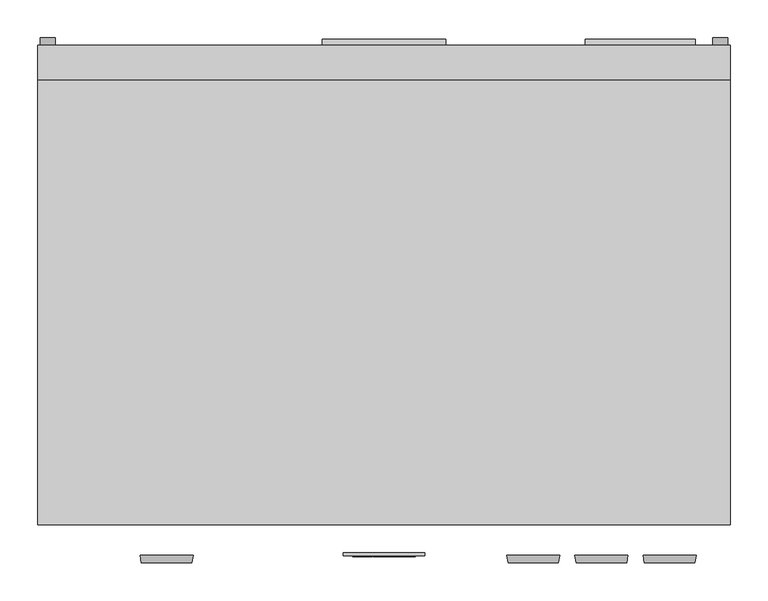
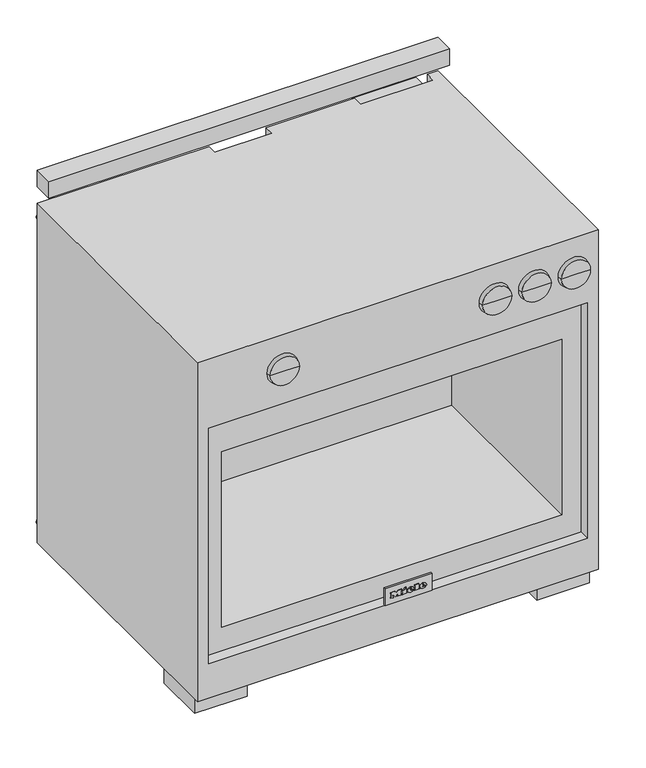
"""IFC4 building model written with IfcOpenShell, lengths in millimetres: proxy geometry, 11791500_USA_HR1136-3G_EDST-CLST : 25113681_USA_11791500_HR1136-3G_EDST-CLST."""

from ifc_helpers import new_model, si_unit, point, frame, frame_2d, origin, origin_with_axes, place, context, project, spatial, polyline, circle_curve, ellipse_curve, trimmed, segment, composite_curve, outline, extrude, faceted_brep, source, transform, mapped, element, save
from ifc_brep_helpers import plane_surface, cylinder_surface, revolved_surface, extruded_surface, advanced_brep


def specialty_equipment_e78757b0(model_context):
    return source(origin(), model_context, "Body", "SolidModel", [
        advanced_brep(
        [(-320.2367302, -683.0, 813.0), (-253.7632698, -683.0, 813.0), (-287.0, -683.0, 813.0), (-322.0, -673.0, 813.0), (-252.0, -673.0, 813.0), (-287.0, -673.0, 813.0)],
        [
            (0, 1, circle_curve(frame((-287.0, -683.0, 813.0), z_axis=(0.0, -1.0, 0.0), x_axis=(1.0, 0.0, 0.0)), 33.2367302)),
            (1, 2),
            (2, 0),
            (1, 0, circle_curve(frame((-287.0, -683.0, 813.0), z_axis=(0.0, -1.0, 0.0), x_axis=(1.0, 0.0, 0.0)), 33.2367302)),
            (3, 4, circle_curve(frame((-287.0, -673.0, 813.0), z_axis=(0.0, -1.0, 0.0), x_axis=(1.0, 0.0, 0.0)), 35.0)),
            (4, 1),
            (0, 3),
            (4, 3, circle_curve(frame((-287.0, -673.0, 813.0), z_axis=(0.0, -1.0, 0.0), x_axis=(1.0, 0.0, 0.0)), 35.0)),
            (5, 4),
            (3, 5),
        ],
        [
            plane_surface(frame((-287.0, -683.0, 813.0), z_axis=(0.0, -1.0, 0.0), x_axis=(1.0, 0.0, 0.0))),
            revolved_surface(polyline([(-253.7632698, -683.0, 813.0), (-252.0, -673.0, 813.0)]), (-287.0, 751.3738435, 813.0), (0.0, 1.0, 0.0)),
            plane_surface(frame((-287.0, -673.0, 813.0), z_axis=(0.0, 1.0, 0.0), x_axis=(1.0, 0.0, 0.0))),
        ],
        [
            (0, [[1, 2, 3]]),
            (0, [[4, -3, -2]]),
            (1, [[5, 6, -1, 7]]),
            (1, [[8, -7, -4, -6]]),
            (2, [[9, -5, 10]]),
            (2, [[-10, -8, -9]]),
        ],
    ),
        advanced_brep(
        [(163.7632698, -683.0, 813.0), (230.2367302, -683.0, 813.0), (197.0, -683.0, 813.0), (162.0, -673.0, 813.0), (232.0, -673.0, 813.0), (197.0, -673.0, 813.0)],
        [
            (0, 1, circle_curve(frame((197.0, -683.0, 813.0), z_axis=(0.0, -1.0, 0.0), x_axis=(1.0, 0.0, 0.0)), 33.2367302)),
            (1, 2),
            (2, 0),
            (1, 0, circle_curve(frame((197.0, -683.0, 813.0), z_axis=(0.0, -1.0, 0.0), x_axis=(1.0, 0.0, 0.0)), 33.2367302)),
            (3, 4, circle_curve(frame((197.0, -673.0, 813.0), z_axis=(0.0, -1.0, 0.0), x_axis=(1.0, 0.0, 0.0)), 35.0)),
            (4, 1),
            (0, 3),
            (4, 3, circle_curve(frame((197.0, -673.0, 813.0), z_axis=(0.0, -1.0, 0.0), x_axis=(1.0, 0.0, 0.0)), 35.0)),
            (5, 4),
            (3, 5),
        ],
        [
            plane_surface(frame((197.0, -683.0, 813.0), z_axis=(0.0, -1.0, 0.0), x_axis=(1.0, 0.0, 0.0))),
            revolved_surface(polyline([(230.2367302, -683.0, 813.0), (232.0, -673.0, 813.0)]), (197.0, 751.3738435, 813.0), (0.0, 1.0, 0.0)),
            plane_surface(frame((197.0, -673.0, 813.0), z_axis=(0.0, 1.0, 0.0), x_axis=(1.0, 0.0, 0.0))),
        ],
        [
            (0, [[1, 2, 3]]),
            (0, [[4, -3, -2]]),
            (1, [[5, 6, -1, 7]]),
            (1, [[8, -7, -4, -6]]),
            (2, [[9, -5, 10]]),
            (2, [[-10, -8, -9]]),
        ],
    ),
        advanced_brep(
        [(253.7632698, -683.0, 813.0), (320.2367302, -683.0, 813.0), (287.0, -683.0, 813.0), (252.0, -673.0, 813.0), (322.0, -673.0, 813.0), (287.0, -673.0, 813.0)],
        [
            (0, 1, circle_curve(frame((287.0, -683.0, 813.0), z_axis=(0.0, -1.0, 0.0), x_axis=(1.0, 0.0, 0.0)), 33.2367302)),
            (1, 2),
            (2, 0),
            (1, 0, circle_curve(frame((287.0, -683.0, 813.0), z_axis=(0.0, -1.0, 0.0), x_axis=(1.0, 0.0, 0.0)), 33.2367302)),
            (3, 4, circle_curve(frame((287.0, -673.0, 813.0), z_axis=(0.0, -1.0, 0.0), x_axis=(1.0, 0.0, 0.0)), 35.0)),
            (4, 1),
            (0, 3),
            (4, 3, circle_curve(frame((287.0, -673.0, 813.0), z_axis=(0.0, -1.0, 0.0), x_axis=(1.0, 0.0, 0.0)), 35.0)),
            (5, 4),
            (3, 5),
        ],
        [
            plane_surface(frame((287.0, -683.0, 813.0), z_axis=(0.0, -1.0, 0.0), x_axis=(1.0, 0.0, 0.0))),
            revolved_surface(polyline([(320.2367302, -683.0, 813.0), (322.0, -673.0, 813.0)]), (287.0, 751.3738435, 813.0), (0.0, 1.0, 0.0)),
            plane_surface(frame((287.0, -673.0, 813.0), z_axis=(0.0, 1.0, 0.0), x_axis=(1.0, 0.0, 0.0))),
        ],
        [
            (0, [[1, 2, 3]]),
            (0, [[4, -3, -2]]),
            (1, [[5, 6, -1, 7]]),
            (1, [[8, -7, -4, -6]]),
            (2, [[9, -5, 10]]),
            (2, [[-10, -8, -9]]),
        ],
    ),
        advanced_brep(
        [(343.7632698, -683.0, 813.0), (410.2367302, -683.0, 813.0), (377.0, -683.0, 813.0), (342.0, -673.0, 813.0), (412.0, -673.0, 813.0), (377.0, -673.0, 813.0)],
        [
            (0, 1, circle_curve(frame((377.0, -683.0, 813.0), z_axis=(0.0, -1.0, 0.0), x_axis=(1.0, 0.0, 0.0)), 33.2367302)),
            (1, 2),
            (2, 0),
            (1, 0, circle_curve(frame((377.0, -683.0, 813.0), z_axis=(0.0, -1.0, 0.0), x_axis=(1.0, 0.0, 0.0)), 33.2367302)),
            (3, 4, circle_curve(frame((377.0, -673.0, 813.0), z_axis=(0.0, -1.0, 0.0), x_axis=(1.0, 0.0, 0.0)), 35.0)),
            (4, 1),
            (0, 3),
            (4, 3, circle_curve(frame((377.0, -673.0, 813.0), z_axis=(0.0, -1.0, 0.0), x_axis=(1.0, 0.0, 0.0)), 35.0)),
            (5, 4),
            (3, 5),
        ],
        [
            plane_surface(frame((377.0, -683.0, 813.0), z_axis=(0.0, -1.0, 0.0), x_axis=(1.0, 0.0, 0.0))),
            revolved_surface(polyline([(410.2367302, -683.0, 813.0), (412.0, -673.0, 813.0)]), (377.0, 751.3738435, 813.0), (0.0, 1.0, 0.0)),
            plane_surface(frame((377.0, -673.0, 813.0), z_axis=(0.0, 1.0, 0.0), x_axis=(1.0, 0.0, 0.0))),
        ],
        [
            (0, [[1, 2, 3]]),
            (0, [[4, -3, -2]]),
            (1, [[5, 6, -1, 7]]),
            (1, [[8, -7, -4, -6]]),
            (2, [[9, -5, 10]]),
            (2, [[-10, -8, -9]]),
        ],
    ),
        extrude(outline(composite_curve([segment(trimmed(circle_curve(frame_2d((822.0, 444.0)), 10.0), [point((822.0, 454.0))], [point((822.0, 434.0))], False, "CARTESIAN"), True, "CONTINUOUS"), segment(trimmed(circle_curve(frame_2d((822.0, 444.0)), 10.0), [point((822.0, 434.0))], [point((822.0, 454.0))], False, "CARTESIAN"), True, "CONTINUOUS")], self_intersect=False)), frame((0.0, 0.0, 0.0), z_axis=(0.0, 1.0, 0.0), x_axis=(0.0, 0.0, 1.0)), (0.0, 0.0, 1.0), 10.0),
        extrude(outline(composite_curve([segment(trimmed(circle_curve(frame_2d((87.0, 444.0)), 10.0), [point((87.0, 454.0))], [point((87.0, 434.0))], False, "CARTESIAN"), True, "CONTINUOUS"), segment(trimmed(circle_curve(frame_2d((87.0, 444.0)), 10.0), [point((87.0, 434.0))], [point((87.0, 454.0))], False, "CARTESIAN"), True, "CONTINUOUS")], self_intersect=False)), frame((0.0, 0.0, 0.0), z_axis=(0.0, 1.0, 0.0), x_axis=(0.0, 0.0, 1.0)), (0.0, 0.0, 1.0), 10.0),
        extrude(outline(composite_curve([segment(trimmed(circle_curve(frame_2d((822.0, -444.0)), 10.0), [point((822.0, -434.0))], [point((822.0, -454.0))], False, "CARTESIAN"), True, "CONTINUOUS"), segment(trimmed(circle_curve(frame_2d((822.0, -444.0)), 10.0), [point((822.0, -454.0))], [point((822.0, -434.0))], False, "CARTESIAN"), True, "CONTINUOUS")], self_intersect=False)), frame((0.0, 0.0, 0.0), z_axis=(0.0, 1.0, 0.0), x_axis=(0.0, 0.0, 1.0)), (0.0, 0.0, 1.0), 10.0),
        extrude(outline(composite_curve([segment(trimmed(circle_curve(frame_2d((87.0, -444.0)), 10.0), [point((87.0, -434.0))], [point((87.0, -454.0))], False, "CARTESIAN"), True, "CONTINUOUS"), segment(trimmed(circle_curve(frame_2d((87.0, -444.0)), 10.0), [point((87.0, -454.0))], [point((87.0, -434.0))], False, "CARTESIAN"), True, "CONTINUOUS")], self_intersect=False)), frame((0.0, 0.0, 0.0), z_axis=(0.0, 1.0, 0.0), x_axis=(0.0, 0.0, 1.0)), (0.0, 0.0, 1.0), 10.0),
        extrude(outline(polyline([(266.0, 8.0), (411.0, 8.0), (411.0, -23.0), (266.0, -23.0), (266.0, 8.0)])), frame((0.0, 0.0, 742.0), z_axis=(0.0, 0.0, 1.0), x_axis=(1.0, 0.0, 0.0)), (0.0, 0.0, 1.0), 115.0),
        extrude(outline(polyline([(-81.5, 8.0), (81.5, 8.0), (81.5, 0.0), (-81.5, 0.0), (-81.5, 8.0)])), frame((0.0, 0.0, 559.0), z_axis=(0.0, 0.0, 1.0), x_axis=(1.0, 0.0, 0.0)), (0.0, 0.0, 1.0), 237.0),
        extrude(outline(composite_curve([segment(trimmed(circle_curve(frame_2d((-152.0, 39.6862697)), 39.6862697), [point((-112.6710759, 45.0))], [point((-191.3289241, 45.0))], False, "CARTESIAN"), True, "CONTINUOUS"), segment(polyline([(-191.3289241, 45.0), (-112.6710759, 45.0)]), True, "CONTINUOUS")], self_intersect=False)), frame((282.0, 0.0, 0.0), z_axis=(1.0, 0.0, 0.0), x_axis=(0.0, 1.0, 0.0)), (0.0, 0.0, 1.0), 28.0),
        extrude(outline(composite_curve([segment(polyline([(-366.0009008, -40.0), (-367.2635363, -40.0), (-367.0191787, -38.9415709), (-366.8778726, -34.1117735)]), True, "CONTINUOUS"), segment(trimmed(circle_curve(frame_2d((-365.387549, -34.1553762)), 1.4909613), [point((-366.8778726, -34.1117735))], [point((-365.6381402, -32.6856246))], False, "CARTESIAN"), True, "CONTINUOUS"), segment(trimmed(circle_curve(frame_2d((-364.1175682, -37.7832301)), 5.3195602), [point((-365.6381402, -32.6856246))], [point((-362.440667, -32.7348914))], False, "CARTESIAN"), True, "CONTINUOUS"), segment(polyline([(-362.440667, -32.7348914), (-361.3643767, -33.4338425), (-360.8177226, -34.6616478), (-362.0710839, -34.8155412), (-362.6628147, -33.9704619)]), True, "CONTINUOUS"), segment(trimmed(circle_curve(frame_2d((-363.889909, -36.6278559)), 2.9270297), [point((-362.6628147, -33.9704619))], [point((-365.335883, -34.0829271))], True, "CARTESIAN"), True, "CONTINUOUS"), segment(polyline([(-365.335883, -34.0829271), (-365.6819155, -35.289686), (-362.4250607, -35.9227545)]), True, "CONTINUOUS"), segment(trimmed(circle_curve(frame_2d((-362.8373847, -38.0439776)), 2.1609254), [point((-362.4250607, -35.9227545))], [point((-361.2872437, -39.5495212))], False, "CARTESIAN"), True, "CONTINUOUS"), segment(trimmed(circle_curve(frame_2d((-363.2230106, -36.6941434)), 3.4496922), [point((-361.2872437, -39.5495212))], [point((-364.4810512, -39.9062626))], False, "CARTESIAN"), True, "CONTINUOUS"), segment(polyline([(-364.4810512, -39.9062626), (-365.6943945, -39.0566705), (-366.0009008, -40.0)]), True, "CONTINUOUS")], self_intersect=False), holes=[composite_curve([segment(polyline([(-365.6808047, -36.7241112), (-365.4778117, -37.8753414), (-364.6808418, -38.5929363), (-363.3846505, -38.8921857)]), True, "CONTINUOUS"), segment(trimmed(circle_curve(frame_2d((-363.1641539, -37.9371101)), 0.980198), [point((-363.3846505, -38.8921857))], [point((-362.5826105, -37.148063))], True, "CARTESIAN"), True, "CONTINUOUS"), segment(polyline([(-362.5826105, -37.148063), (-363.683896, -36.9339948), (-365.6808047, -36.7241112)]), True, "CONTINUOUS")], self_intersect=False)]), frame((0.0, 0.0, 753.0), z_axis=(0.0, 0.0, 1.0), x_axis=(1.0, 0.0, 0.0)), (0.0, 0.0, 1.0), 1.0),
        extrude(outline(composite_curve([segment(polyline([(-369.4581842, -37.6489066), (-368.202206, -37.8031213), (-369.1593436, -39.5606642)]), True, "CONTINUOUS"), segment(trimmed(circle_curve(frame_2d((-371.3057471, -36.6354063)), 3.6282478), [point((-369.1593436, -39.5606642))], [point((-372.8962663, -39.8964538))], False, "CARTESIAN"), True, "CONTINUOUS"), segment(trimmed(circle_curve(frame_2d((-371.7731504, -37.593725)), 2.5620205), [point((-372.8962663, -39.8964538))], [point((-374.32893, -37.7724425))], False, "CARTESIAN"), True, "CONTINUOUS"), segment(trimmed(circle_curve(frame_2d((-372.617737, -37.6527843)), 1.7153715), [point((-374.32893, -37.7724425))], [point((-373.147816, -36.021369))], False, "CARTESIAN"), True, "CONTINUOUS"), segment(polyline([(-373.147816, -36.021369), (-371.3069947, -35.4232499), (-369.987673, -33.9770867)]), True, "CONTINUOUS"), segment(trimmed(circle_curve(frame_2d((-371.1408399, -36.351197)), 2.6393548), [point((-369.987673, -33.9770867))], [point((-372.2940069, -33.9770867))], True, "CARTESIAN"), True, "CONTINUOUS"), segment(polyline([(-372.2940069, -33.9770867), (-372.7553884, -34.6611129), (-374.0084996, -34.5072502), (-373.5756304, -33.3795875)]), True, "CONTINUOUS"), segment(trimmed(circle_curve(frame_2d((-370.9527143, -36.6576461)), 4.1982564), [point((-373.5756304, -33.3795875))], [point((-371.0505395, -32.4605295))], False, "CARTESIAN"), True, "CONTINUOUS"), segment(trimmed(circle_curve(frame_2d((-370.9805679, -35.4626064)), 3.0028922), [point((-371.0505395, -32.4605295))], [point((-368.5718203, -33.6694816))], False, "CARTESIAN"), True, "CONTINUOUS"), segment(trimmed(circle_curve(frame_2d((-370.4380028, -34.5301363)), 2.0550823), [point((-368.5718203, -33.6694816))], [point((-369.4341096, -36.323335))], False, "CARTESIAN"), True, "CONTINUOUS"), segment(polyline([(-369.4341096, -36.323335), (-371.3494535, -36.9828408), (-373.0597255, -37.9076387), (-372.6768706, -38.6156702)]), True, "CONTINUOUS"), segment(trimmed(circle_curve(frame_2d((-371.3695779, -35.6018954)), 3.2850956), [point((-372.6768706, -38.6156702))], [point((-370.0622852, -38.6156702))], True, "CARTESIAN"), True, "CONTINUOUS"), segment(polyline([(-370.0622852, -38.6156702), (-369.4581842, -37.6489066)]), True, "CONTINUOUS")], self_intersect=False)), frame((0.0, 0.0, 753.0), z_axis=(0.0, 0.0, 1.0), x_axis=(1.0, 0.0, 0.0)), (0.0, 0.0, 1.0), 1.0),
        extrude(outline(composite_curve([segment(polyline([(-359.0941465, -34.8216074), (-355.0193946, -34.8216074), (-355.0193946, -36.0727848), (-357.8300756, -36.0727848), (-357.8300756, -37.8953779), (-356.5547934, -38.5734575), (-354.8554891, -38.8730907)]), True, "CONTINUOUS"), segment(trimmed(circle_curve(frame_2d((-354.7763582, -35.1835188)), 3.6904203), [point((-354.8554891, -38.8730907))], [point((-351.0917956, -34.975672))], True, "CARTESIAN"), True, "CONTINUOUS"), segment(trimmed(circle_curve(frame_2d((-355.2742118, -35.2116028)), 4.1890654), [point((-351.0917956, -34.975672))], [point((-354.8924604, -31.0399683))], True, "CARTESIAN"), True, "CONTINUOUS"), segment(trimmed(circle_curve(frame_2d((-355.1434541, -33.7827322)), 2.7542243), [point((-354.8924604, -31.0399683))], [point((-357.2311401, -31.9862582))], True, "CARTESIAN"), True, "CONTINUOUS"), segment(polyline([(-357.2311401, -31.9862582), (-357.7913432, -33.1348449), (-358.9545959, -32.808521), (-358.2222817, -31.1459412)]), True, "CONTINUOUS"), segment(trimmed(circle_curve(frame_2d((-355.0056573, -34.3038983)), 4.5077007), [point((-358.2222817, -31.1459412))], [point((-354.8478593, -29.7989604))], False, "CARTESIAN"), True, "CONTINUOUS"), segment(trimmed(circle_curve(frame_2d((-355.0297107, -35.0029797)), 5.2071956), [point((-354.8478593, -29.7989604))], [point((-349.8225151, -35.0029797))], False, "CARTESIAN"), True, "CONTINUOUS"), segment(trimmed(circle_curve(frame_2d((-355.0187023, -34.9634409)), 5.1963376), [point((-349.8225151, -35.0029797))], [point((-355.0187023, -40.1597785))], False, "CARTESIAN"), True, "CONTINUOUS"), segment(polyline([(-355.0187023, -40.1597785), (-357.0821579, -39.7823822), (-359.0941465, -38.5734575), (-359.0941465, -34.8216074)]), True, "CONTINUOUS")], self_intersect=False)), frame((0.0, 0.0, 753.0), z_axis=(0.0, 0.0, 1.0), x_axis=(1.0, 0.0, 0.0)), (0.0, 0.0, 1.0), 1.0),
        extrude(outline(polyline([(246.4261097, -48.2846028), (239.1553153, -48.2846028), (239.1553153, -47.0259878), (245.1324687, -47.0259878), (245.1324687, -44.0398896), (239.4699511, -44.0398896), (239.4699511, -42.7868997), (245.1324687, -42.7868997), (245.1324687, -39.484481), (239.0234692, -39.484481), (239.0234692, -38.223126), (246.4261097, -38.223126), (246.4261097, -48.2846028)])), frame((0.0, 0.0, 101.0), z_axis=(0.0, 0.0, 1.0), x_axis=(1.0, 0.0, 0.0)), (0.0, 0.0, 1.0), 1.0),
        extrude(outline(polyline([(237.0939455, -48.2781045), (230.9083542, -48.2781045), (230.9083542, -47.0259878), (235.9083542, -47.0259878), (235.9083542, -38.223126), (237.0939455, -38.223126), (237.0939455, -48.2781045)])), frame((0.0, 0.0, 101.0), z_axis=(0.0, 0.0, 1.0), x_axis=(1.0, 0.0, 0.0)), (0.0, 0.0, 1.0), 1.0),
        extrude(outline(composite_curve([segment(trimmed(circle_curve(frame_2d((239.0, -44.0)), 7.5), [point((239.0, -51.5))], [point((239.0, -36.5))], False, "CARTESIAN"), True, "CONTINUOUS"), segment(trimmed(circle_curve(frame_2d((239.0, -44.0)), 7.5), [point((239.0, -36.5))], [point((239.0, -51.5))], False, "CARTESIAN"), True, "CONTINUOUS")], self_intersect=False)), frame((0.0, 0.0, 102.0), z_axis=(0.0, 0.0, 1.0), x_axis=(1.0, 0.0, 0.0)), (0.0, 0.0, 1.0), 30.0),
        extrude(outline(composite_curve([segment(trimmed(circle_curve(frame_2d((-362.0, -35.0)), 7.5), [point((-369.5, -35.0))], [point((-354.5, -35.0))], False, "CARTESIAN"), True, "CONTINUOUS"), segment(trimmed(circle_curve(frame_2d((-362.0, -35.0)), 7.5), [point((-354.5, -35.0))], [point((-369.5, -35.0))], False, "CARTESIAN"), True, "CONTINUOUS")], self_intersect=False)), frame((0.0, 0.0, 754.0), z_axis=(0.0, 0.0, 1.0), x_axis=(1.0, 0.0, 0.0)), (0.0, 0.0, 1.0), 30.0),
        faceted_brep([(-457.0, 0.0, 862.0), (-457.0, -633.0, 862.0), (457.0, -633.0, 862.0), (457.0, 0.0, 862.0), (432.0, 0.0, 862.0), (432.0, -23.0, 862.0), (266.0, -23.0, 862.0), (266.0, 0.0, 862.0), (65.0, 0.0, 862.0), (65.0, -23.0, 862.0), (-66.0, -23.0, 862.0), (-66.0, 0.0, 862.0), (457.0, 0.0, 45.0), (457.0, -633.0, 45.0), (-457.0, -633.0, 45.0), (-457.0, 0.0, 45.0), (-432.0, 0.0, 45.0), (-432.0, -75.0, 45.0), (432.0, -75.0, 45.0), (432.0, 0.0, 45.0), (266.0, 0.0, 132.0), (65.0, 0.0, 132.0), (-66.0, 0.0, 132.0), (-270.0, 0.0, 132.0), (-270.0, 0.0, 784.0), (-411.0, 0.0, 784.0), (-411.0, 0.0, 132.0), (-432.0, 0.0, 132.0), (432.0, -633.0, 695.0), (432.0, -633.0, 128.0), (-432.0, -633.0, 128.0), (-432.0, -633.0, 695.0), (432.0, -608.0, 695.0), (-432.0, -608.0, 695.0), (-432.0, -608.0, 128.0), (432.0, -608.0, 128.0), (388.0, -608.0, 608.0), (388.0, -608.0, 185.0), (-388.0, -608.0, 185.0), (-388.0, -608.0, 608.0), (388.0, -173.0, 608.0), (-388.0, -173.0, 608.0), (-388.0, -173.0, 185.0), (388.0, -173.0, 185.0), (432.0, -23.0, 132.0), (266.0, -23.0, 132.0), (65.0, -23.0, 132.0), (-66.0, -23.0, 132.0), (432.0, -75.0, 132.0), (-411.0, -69.0, 784.0), (-270.0, -69.0, 784.0), (-270.0, -69.0, 132.0), (-411.0, -69.0, 132.0), (-432.0, -75.0, 132.0)], [[[0, 1, 2, 3, 4, 5, 6, 7, 8, 9, 10, 11]], [[12, 13, 14, 15, 16, 17, 18, 19]], [[8, 7, 20, 21]], [[3, 12, 19, 4]], [[15, 0, 11, 22, 23, 24, 25, 26, 27, 16]], [[1, 0, 15, 14]], [[2, 1, 14, 13], [28, 29, 30, 31]], [[3, 2, 13, 12]], [[32, 33, 34, 35], [36, 37, 38, 39]], [[32, 35, 29, 28]], [[35, 34, 30, 29]], [[34, 33, 31, 30]], [[33, 32, 28, 31]], [[40, 41, 42, 43]], [[40, 43, 37, 36]], [[43, 42, 38, 37]], [[42, 41, 39, 38]], [[41, 40, 36, 39]], [[6, 5, 44, 45]], [[10, 9, 46, 47]], [[9, 8, 21, 46]], [[11, 10, 47, 22]], [[5, 4, 19, 18, 48, 44]], [[7, 6, 45, 20]], [[49, 50, 51, 52]], [[50, 49, 25, 24]], [[50, 24, 23, 51]], [[25, 49, 52, 26]], [[53, 48, 18, 17]], [[27, 53, 17, 16]], [[48, 53, 27, 26, 52, 51, 23, 22, 47, 46, 21, 20, 45, 44]]]),
        extrude(outline(composite_curve([segment(trimmed(circle_curve(frame_2d((-152.0, 39.6862697)), 39.6862697), [point((-112.6710759, 45.0))], [point((-191.3289241, 45.0))], False, "CARTESIAN"), True, "CONTINUOUS"), segment(polyline([(-191.3289241, 45.0), (-112.6710759, 45.0)]), True, "CONTINUOUS")], self_intersect=False)), frame((-310.0, 0.0, 0.0), z_axis=(1.0, 0.0, 0.0), x_axis=(0.0, 1.0, 0.0)), (0.0, 0.0, 1.0), 28.0),
        extrude(outline(polyline([(-330.0, -489.0), (-330.0, -609.0), (-450.0, -609.0), (-450.0, -489.0), (-330.0, -489.0)])), origin_with_axes(), (0.0, 0.0, 1.0), 45.0),
        extrude(outline(polyline([(450.0, -489.0), (450.0, -609.0), (330.0, -609.0), (330.0, -489.0), (450.0, -489.0)])), origin_with_axes(), (0.0, 0.0, 1.0), 45.0),
        advanced_brep(
        [(32.17, -675.0, 177.1995), (32.17, -675.0, 178.563), (41.2015, -675.0, 178.563), (25.4875, -675.0, 178.563), (29.2, -675.0, 174.0), (40.972, -675.0, 177.1995), (36.895, -675.0, 177.1995), (33.682, -675.0, 175.6875), (32.17, -675.0, 180.291), (32.17, -675.0, 181.7625), (34.4785, -675.0, 181.7625), (34.4785, -675.0, 180.291), (32.17, -674.0, 177.1995), (33.682, -674.0, 175.6875), (36.895, -674.0, 177.1995), (40.972, -674.0, 177.1995), (29.2, -674.0, 174.0), (25.4875, -674.0, 178.563), (41.2015, -674.0, 178.563), (32.17, -674.0, 178.563), (32.17, -674.0, 180.291), (34.4785, -674.0, 180.291), (34.4785, -674.0, 181.7625), (32.17, -674.0, 181.7625)],
        [
            (0, 1),
            (1, 2),
            (2, 3, ellipse_curve(frame((33.3445, -675.0, 178.563), z_axis=(0.0, -1.0, 0.0), x_axis=(-1.0, 0.0, 0.0)), 7.857, 6.4935)),
            (3, 4, circle_curve(frame((30.7120736, -675.0, 179.022), z_axis=(0.0, -1.0, 0.0), x_axis=(0.0, 0.0, -1.0)), 5.2446974)),
            (4, 5, circle_curve(frame((33.1872142, -675.0, 182.586), z_axis=(0.0, -1.0, 0.0), x_axis=(0.0, 0.0, -1.0)), 9.46664)),
            (5, 6),
            (6, 7, circle_curve(frame((34.3419118, -675.0, 178.455), z_axis=(0.0, 1.0, 0.0), x_axis=(0.0, 0.0, -1.0)), 2.8450905)),
            (7, 0, circle_curve(frame((33.682, -675.0, 177.1995), z_axis=(0.0, 1.0, 0.0), x_axis=(0.0, 0.0, -1.0)), 1.512)),
            (8, 9),
            (9, 10, circle_curve(frame((33.32425, -675.0, 181.7625), z_axis=(0.0, 1.0, 0.0), x_axis=(0.0, 0.0, -1.0)), 1.15425)),
            (10, 11),
            (11, 8),
            (12, 13, circle_curve(frame((33.682, -674.0, 177.1995), z_axis=(0.0, -1.0, 0.0), x_axis=(0.0, 0.0, -1.0)), 1.512)),
            (13, 14, circle_curve(frame((34.3419118, -674.0, 178.455), z_axis=(0.0, -1.0, 0.0), x_axis=(0.0, 0.0, -1.0)), 2.8450905)),
            (14, 15),
            (15, 16, circle_curve(frame((33.1872142, -674.0, 182.586), z_axis=(0.0, 1.0, 0.0), x_axis=(0.0, 0.0, -1.0)), 9.46664)),
            (16, 17, circle_curve(frame((30.7120736, -674.0, 179.022), z_axis=(0.0, 1.0, 0.0), x_axis=(0.0, 0.0, -1.0)), 5.2446974)),
            (17, 18, ellipse_curve(frame((33.3445, -674.0, 178.563), z_axis=(0.0, 1.0, 0.0), x_axis=(-1.0, 0.0, 0.0)), 7.857, 6.4935)),
            (18, 19),
            (19, 12),
            (20, 21),
            (21, 22),
            (22, 23, circle_curve(frame((33.32425, -674.0, 181.7625), z_axis=(0.0, -1.0, 0.0), x_axis=(0.0, 0.0, -1.0)), 1.15425)),
            (23, 20),
            (0, 12),
            (19, 1),
            (18, 2),
            (5, 15),
            (14, 6),
            (17, 3),
            (13, 7),
            (16, 4),
            (8, 20),
            (23, 9),
            (22, 10),
            (21, 11),
        ],
        [
            plane_surface(frame((32.17, -675.0, 178.563), z_axis=(0.0, -1.0, 0.0), x_axis=(0.0, 0.0, 1.0))),
            plane_surface(frame((32.17, -674.0, 178.563), z_axis=(0.0, 1.0, 0.0), x_axis=(0.0, 0.0, -1.0))),
            plane_surface(frame((32.17, -675.0, 177.1995), z_axis=(1.0, 0.0, 0.0), x_axis=(0.0, 1.0, 0.0))),
            plane_surface(frame((32.17, -675.0, 178.563), z_axis=(0.0, 0.0, -1.0), x_axis=(0.0, 1.0, 0.0))),
            plane_surface(frame((40.972, -675.0, 177.1995), z_axis=(0.0, 0.0, 1.0), x_axis=(0.0, 1.0, 0.0))),
            extruded_surface(trimmed(ellipse_curve(frame((33.3445, -673.0, 178.563), z_axis=(0.0, -1.0, 0.0), x_axis=(-1.0, 0.0, 0.0)), 7.857, 6.4935), [point((41.2015, -673.0, 178.563))], [point((25.4875, -673.0, 178.563))], True, "CARTESIAN"), (0.0, -1.0, 0.0), 1.0),
            revolved_surface(polyline([(34.3419118, -674.0, 175.60990950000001), (34.3419118, -675.0, 175.60990950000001)]), (34.3419118, -674.0, 178.455), (0.0, 1.0, 0.0)),
            revolved_surface(polyline([(33.682, -674.0, 175.6875), (33.682, -675.0, 175.6875)]), (33.682, -674.0, 177.1995), (0.0, 1.0, 0.0)),
            cylinder_surface(frame((30.7120736, -674.0, 179.022), z_axis=(0.0, -1.0, 0.0), x_axis=(0.0, 0.0, -1.0)), 5.2446974),
            cylinder_surface(frame((33.1872142, -674.0, 182.586), z_axis=(0.0, -1.0, 0.0), x_axis=(0.0, 0.0, -1.0)), 9.46664),
            plane_surface(frame((32.17, -675.0, 180.291), z_axis=(1.0, 0.0, 0.0), x_axis=(0.0, 1.0, 0.0))),
            revolved_surface(polyline([(33.32425, -674.0, 180.60825), (33.32425, -675.0, 180.60825)]), (33.32425, -674.0, 181.7625), (0.0, 1.0, 0.0)),
            plane_surface(frame((34.4785, -675.0, 181.7625), z_axis=(-1.0, 0.0, 0.0), x_axis=(0.0, 1.0, 0.0))),
            plane_surface(frame((34.4785, -675.0, 180.291), z_axis=(0.0, 0.0, 1.0), x_axis=(0.0, 1.0, 0.0))),
        ],
        [
            (0, [[1, 2, 3, 4, 5, 6, 7, 8], [9, 10, 11, 12]]),
            (1, [[13, 14, 15, 16, 17, 18, 19, 20], [21, 22, 23, 24]]),
            (2, [[-1, 25, -20, 26]]),
            (3, [[-2, -26, -19, 27]]),
            (4, [[-6, 28, -15, 29]]),
            (5, [[-3, -27, -18, 30]]),
            (6, [[-7, -29, -14, 31]]),
            (7, [[-8, -31, -13, -25]]),
            (8, [[-4, -30, -17, 32]]),
            (9, [[-5, -32, -16, -28]]),
            (10, [[-9, 33, -24, 34]]),
            (11, [[-10, -34, -23, 35]]),
            (12, [[-11, -35, -22, 36]]),
            (13, [[-12, -36, -21, -33]]),
        ],
    ),
        advanced_brep(
        [(3.9955, -675.0, 177.1995), (3.9955, -675.0, 178.563), (13.027, -675.0, 178.563), (-2.687, -675.0, 178.563), (1.0255, -675.0, 174.0), (12.7975, -675.0, 177.1995), (8.7205, -675.0, 177.1995), (5.5075, -675.0, 175.6875), (3.9955, -675.0, 180.291), (3.9955, -675.0, 181.7625), (6.304, -675.0, 181.7625), (6.304, -675.0, 180.291), (3.9955, -674.0, 177.1995), (5.5075, -674.0, 175.6875), (8.7205, -674.0, 177.1995), (12.7975, -674.0, 177.1995), (1.0255, -674.0, 174.0), (-2.687, -674.0, 178.563), (13.027, -674.0, 178.563), (3.9955, -674.0, 178.563), (3.9955, -674.0, 180.291), (6.304, -674.0, 180.291), (6.304, -674.0, 181.7625), (3.9955, -674.0, 181.7625)],
        [
            (0, 1),
            (1, 2),
            (2, 3, ellipse_curve(frame((5.17, -675.0, 178.563), z_axis=(0.0, -1.0, 0.0), x_axis=(-1.0, 0.0, 0.0)), 7.857, 6.4935)),
            (3, 4, circle_curve(frame((2.5375736, -675.0, 179.022), z_axis=(0.0, -1.0, 0.0), x_axis=(0.0, 0.0, -1.0)), 5.2446974)),
            (4, 5, circle_curve(frame((5.0127142, -675.0, 182.586), z_axis=(0.0, -1.0, 0.0), x_axis=(0.0, 0.0, -1.0)), 9.46664)),
            (5, 6),
            (6, 7, circle_curve(frame((6.1674118, -675.0, 178.455), z_axis=(0.0, 1.0, 0.0), x_axis=(0.0, 0.0, -1.0)), 2.8450905)),
            (7, 0, circle_curve(frame((5.5075, -675.0, 177.1995), z_axis=(0.0, 1.0, 0.0), x_axis=(0.0, 0.0, -1.0)), 1.512)),
            (8, 9),
            (9, 10, circle_curve(frame((5.14975, -675.0, 181.7625), z_axis=(0.0, 1.0, 0.0), x_axis=(0.0, 0.0, -1.0)), 1.15425)),
            (10, 11),
            (11, 8),
            (12, 13, circle_curve(frame((5.5075, -674.0, 177.1995), z_axis=(0.0, -1.0, 0.0), x_axis=(0.0, 0.0, -1.0)), 1.512)),
            (13, 14, circle_curve(frame((6.1674118, -674.0, 178.455), z_axis=(0.0, -1.0, 0.0), x_axis=(0.0, 0.0, -1.0)), 2.8450905)),
            (14, 15),
            (15, 16, circle_curve(frame((5.0127142, -674.0, 182.586), z_axis=(0.0, 1.0, 0.0), x_axis=(0.0, 0.0, -1.0)), 9.46664)),
            (16, 17, circle_curve(frame((2.5375736, -674.0, 179.022), z_axis=(0.0, 1.0, 0.0), x_axis=(0.0, 0.0, -1.0)), 5.2446974)),
            (17, 18, ellipse_curve(frame((5.17, -674.0, 178.563), z_axis=(0.0, 1.0, 0.0), x_axis=(-1.0, 0.0, 0.0)), 7.857, 6.4935)),
            (18, 19),
            (19, 12),
            (20, 21),
            (21, 22),
            (22, 23, circle_curve(frame((5.14975, -674.0, 181.7625), z_axis=(0.0, -1.0, 0.0), x_axis=(0.0, 0.0, -1.0)), 1.15425)),
            (23, 20),
            (0, 12),
            (19, 1),
            (18, 2),
            (5, 15),
            (14, 6),
            (17, 3),
            (13, 7),
            (16, 4),
            (8, 20),
            (23, 9),
            (22, 10),
            (21, 11),
        ],
        [
            plane_surface(frame((3.9955, -675.0, 178.563), z_axis=(0.0, -1.0, 0.0), x_axis=(0.0, 0.0, 1.0))),
            plane_surface(frame((3.9955, -674.0, 178.563), z_axis=(0.0, 1.0, 0.0), x_axis=(0.0, 0.0, -1.0))),
            plane_surface(frame((3.9955, -675.0, 177.1995), z_axis=(1.0, 0.0, 0.0), x_axis=(0.0, 1.0, 0.0))),
            plane_surface(frame((3.9955, -675.0, 178.563), z_axis=(0.0, 0.0, -1.0), x_axis=(0.0, 1.0, 0.0))),
            plane_surface(frame((12.7975, -675.0, 177.1995), z_axis=(0.0, 0.0, 1.0), x_axis=(0.0, 1.0, 0.0))),
            extruded_surface(trimmed(ellipse_curve(frame((5.17, -673.0, 178.563), z_axis=(0.0, -1.0, 0.0), x_axis=(-1.0, 0.0, 0.0)), 7.857, 6.4935), [point((13.027, -673.0, 178.563))], [point((-2.687, -673.0, 178.563))], True, "CARTESIAN"), (0.0, -1.0, 0.0), 1.0),
            revolved_surface(polyline([(6.1674118, -674.0, 175.60990950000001), (6.1674118, -675.0, 175.60990950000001)]), (6.1674118, -674.0, 178.455), (0.0, 1.0, 0.0)),
            revolved_surface(polyline([(5.5075, -674.0, 175.6875), (5.5075, -675.0, 175.6875)]), (5.5075, -674.0, 177.1995), (0.0, 1.0, 0.0)),
            cylinder_surface(frame((2.5375736, -674.0, 179.022), z_axis=(0.0, -1.0, 0.0), x_axis=(0.0, 0.0, -1.0)), 5.2446974),
            cylinder_surface(frame((5.0127142, -674.0, 182.586), z_axis=(0.0, -1.0, 0.0), x_axis=(0.0, 0.0, -1.0)), 9.46664),
            plane_surface(frame((3.9955, -675.0, 180.291), z_axis=(1.0, 0.0, 0.0), x_axis=(0.0, 1.0, 0.0))),
            revolved_surface(polyline([(5.14975, -674.0, 180.60825), (5.14975, -675.0, 180.60825)]), (5.14975, -674.0, 181.7625), (0.0, 1.0, 0.0)),
            plane_surface(frame((6.304, -675.0, 181.7625), z_axis=(-1.0, 0.0, 0.0), x_axis=(0.0, 1.0, 0.0))),
            plane_surface(frame((6.304, -675.0, 180.291), z_axis=(0.0, 0.0, 1.0), x_axis=(0.0, 1.0, 0.0))),
        ],
        [
            (0, [[1, 2, 3, 4, 5, 6, 7, 8], [9, 10, 11, 12]]),
            (1, [[13, 14, 15, 16, 17, 18, 19, 20], [21, 22, 23, 24]]),
            (2, [[-1, 25, -20, 26]]),
            (3, [[-2, -26, -19, 27]]),
            (4, [[-6, 28, -15, 29]]),
            (5, [[-3, -27, -18, 30]]),
            (6, [[-7, -29, -14, 31]]),
            (7, [[-8, -31, -13, -25]]),
            (8, [[-4, -30, -17, 32]]),
            (9, [[-5, -32, -16, -28]]),
            (10, [[-9, 33, -24, 34]]),
            (11, [[-10, -34, -23, 35]]),
            (12, [[-11, -35, -22, 36]]),
            (13, [[-12, -36, -21, -33]]),
        ],
    ),
        extrude(outline(polyline([(186.7035, -10.76), (184.5165, -9.734), (186.6495, -5.1575), (188.8365, -6.17), (186.7035, -10.76)])), frame((0.0, -675.0, 0.0), z_axis=(0.0, 1.0, 0.0), x_axis=(0.0, 0.0, 1.0)), (0.0, 0.0, 1.0), 1.0),
        extrude(outline(polyline([(184.2195, -14.0945), (181.803, -14.0945), (181.803, -12.488), (176.268, -12.488), (176.268, -14.0945), (174.0, -14.0945), (174.0, -3.443), (176.268, -3.443), (176.268, -5.009), (184.2195, -5.009), (184.2195, -14.0945)])), frame((0.0, -675.0, 0.0), z_axis=(0.0, 1.0, 0.0), x_axis=(0.0, 0.0, 1.0)), (0.0, 0.0, 1.0), 1.0),
        extrude(outline(polyline([(185.2995, 13.783), (185.2995, 15.403), (176.268, 15.403), (176.268, 13.783), (174.0, 13.783), (174.0, 24.7315), (176.268, 24.7315), (176.268, 23.071), (187.5, 23.071), (187.5, 13.783), (185.2995, 13.783)])), frame((0.0, -675.0, 0.0), z_axis=(0.0, 1.0, 0.0), x_axis=(0.0, 0.0, 1.0)), (0.0, 0.0, 1.0), 1.0),
        extrude(outline(polyline([(185.2995, -41.0), (185.2995, -39.3665), (176.268, -39.3665), (176.268, -41.0), (174.0, -41.0), (174.0, -35.06), (176.268, -35.06), (176.268, -36.68), (181.9756247, -36.68), (174.0, -30.6455), (182.2527223, -24.584), (176.268, -24.584), (176.268, -26.2445), (174.0, -26.2445), (174.0, -15.4715), (176.268, -15.4715), (176.268, -17.186), (185.2995, -17.186), (185.2995, -15.4715), (187.5, -15.4715), (187.5, -23.693), (182.4375, -27.635), (187.5, -31.5905), (187.5, -41.0), (185.2995, -41.0)])), frame((0.0, -675.0, 0.0), z_axis=(0.0, 1.0, 0.0), x_axis=(0.0, 0.0, 1.0)), (0.0, 0.0, 1.0), 1.0),
        extrude(outline(polyline([(457.0, 0.0), (457.0, -45.0), (-457.0, -45.0), (-457.0, 0.0), (457.0, 0.0)])), frame((0.0, 0.0, 902.0), z_axis=(0.0, 0.0, 1.0), x_axis=(1.0, 0.0, 0.0)), (0.0, 0.0, 1.0), 40.0),
        extrude(outline(composite_curve([segment(polyline([(-670.0, 160.0), (-673.5, 160.0)]), True, "CONTINUOUS"), segment(trimmed(circle_curve(frame_2d((-464.0137328, 180.5)), 210.4869263), [point((-673.5, 160.0))], [point((-673.5, 201.0))], False, "CARTESIAN"), True, "CONTINUOUS"), segment(polyline([(-673.5, 201.0), (-670.0, 201.0), (-670.0, 160.0)]), True, "CONTINUOUS")], self_intersect=False)), frame((-53.5, 0.0, 0.0), z_axis=(1.0, 0.0, 0.0), x_axis=(0.0, 1.0, 0.0)), (0.0, 0.0, 1.0), 107.0),
    ])


if __name__ == "__main__":
    model = new_model("IFC4")
    model_context = context("Model", 3, world=origin())
    ifc_project = project(units=[si_unit("LENGTHUNIT", "METRE", prefix="MILLI")], contexts=[model_context])
    site = spatial("IfcSite", under=ifc_project)
    building = spatial("IfcBuilding", under=site)
    placement = place(None, origin())
    specialty_equipment_shape = specialty_equipment_e78757b0(model_context)
    element("IfcBuildingElementProxy", 1, Name="11791500_USA_HR1136-3G_EDST-CLST : 25113681_USA_11791500_HR1136-3G_EDST-CLST", ObjectType="11791500_USA_HR1136-3G_EDST-CLST : 25113681_USA_11791500_HR1136-3G_EDST-CLST", at=placement, inside=building, context=model_context, shape_type="MappedRepresentation", body=[
        mapped(specialty_equipment_shape, transform((0.0, 0.0, 0.0), x_axis=(1.0, 0.0, 0.0), y_axis=(0.0, 1.0, 0.0), z_axis=(0.0, 0.0, 1.0))),
    ])
    save(model, "model.ifc")
